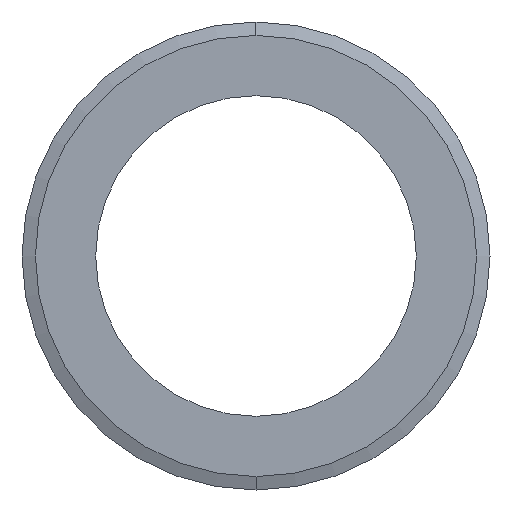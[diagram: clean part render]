
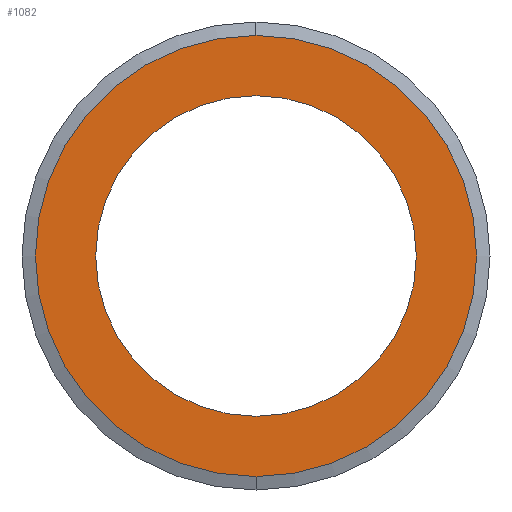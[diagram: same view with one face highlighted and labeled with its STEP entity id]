
A CAD part, left-side view. The second image highlights one B-rep face of the part: STEP entity #1082.
In plain terms, the highlighted planar face has unit normal (-1, 0, 0).
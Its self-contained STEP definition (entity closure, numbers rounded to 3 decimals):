
#57 = EDGE_CURVE ( 'NONE', #449, #1783, #504, .T. ) ;
#86 = AXIS2_PLACEMENT_3D ( 'NONE', #1258, #1267, #1274 ) ;
#201 = VERTEX_POINT ( 'NONE', #742 ) ;
#211 = AXIS2_PLACEMENT_3D ( 'NONE', #1501, #1504, #1512 ) ;
#223 = CIRCLE ( 'NONE', #86, 29.8 ) ;
#299 = CARTESIAN_POINT ( 'NONE',  ( 0., 0., 0. ) ) ;
#301 = ORIENTED_EDGE ( 'NONE', *, *, #1552, .T. ) ;
#304 = DIRECTION ( 'NONE',  ( 1., 0., 0. ) ) ;
#403 = FACE_BOUND ( 'NONE', #1547, .T. ) ;
#435 = AXIS2_PLACEMENT_3D ( 'NONE', #890, #908, #1031 ) ;
#449 = VERTEX_POINT ( 'NONE', #1154 ) ;
#495 = AXIS2_PLACEMENT_3D ( 'NONE', #1553, #1636, #1657 ) ;
#504 = CIRCLE ( 'NONE', #725, 29.8 ) ;
#631 = ORIENTED_EDGE ( 'NONE', *, *, #57, .T. ) ;
#725 = AXIS2_PLACEMENT_3D ( 'NONE', #299, #304, #1772 ) ;
#742 = CARTESIAN_POINT ( 'NONE',  ( 0., 0., 41. ) ) ;
#780 = FACE_OUTER_BOUND ( 'NONE', #1796, .T. ) ;
#890 = CARTESIAN_POINT ( 'NONE',  ( 0., 0., 0. ) ) ;
#908 = DIRECTION ( 'NONE',  ( -1., 0., 0. ) ) ;
#950 = CIRCLE ( 'NONE', #435, 41. ) ;
#1009 = ORIENTED_EDGE ( 'NONE', *, *, #1039, .T. ) ;
#1031 = DIRECTION ( 'NONE',  ( 0., 0., 1. ) ) ;
#1038 = CARTESIAN_POINT ( 'NONE',  ( 0., 0., -29.8 ) ) ;
#1039 = EDGE_CURVE ( 'NONE', #201, #1644, #1580, .T. ) ;
#1082 = ADVANCED_FACE ( 'NONE', ( #403, #780 ), #1628, .F. ) ;
#1154 = CARTESIAN_POINT ( 'NONE',  ( 0., 0., 29.8 ) ) ;
#1258 = CARTESIAN_POINT ( 'NONE',  ( 0., 0., 0. ) ) ;
#1267 = DIRECTION ( 'NONE',  ( 1., 0., 0. ) ) ;
#1274 = DIRECTION ( 'NONE',  ( 0., 0., -1. ) ) ;
#1389 = ORIENTED_EDGE ( 'NONE', *, *, #1747, .T. ) ;
#1501 = CARTESIAN_POINT ( 'NONE',  ( 0., 0., 0. ) ) ;
#1504 = DIRECTION ( 'NONE',  ( -1., 0., 0. ) ) ;
#1512 = DIRECTION ( 'NONE',  ( 0., 0., 1. ) ) ;
#1547 = EDGE_LOOP ( 'NONE', ( #301, #631 ) ) ;
#1552 = EDGE_CURVE ( 'NONE', #1783, #449, #223, .T. ) ;
#1553 = CARTESIAN_POINT ( 'NONE',  ( 0., 0., 0. ) ) ;
#1580 = CIRCLE ( 'NONE', #211, 41. ) ;
#1628 = PLANE ( 'NONE',  #495 ) ;
#1636 = DIRECTION ( 'NONE',  ( 1., 0., 0. ) ) ;
#1644 = VERTEX_POINT ( 'NONE', #1825 ) ;
#1657 = DIRECTION ( 'NONE',  ( 0., 0., -1. ) ) ;
#1747 = EDGE_CURVE ( 'NONE', #1644, #201, #950, .T. ) ;
#1772 = DIRECTION ( 'NONE',  ( 0., 0., -1. ) ) ;
#1783 = VERTEX_POINT ( 'NONE', #1038 ) ;
#1796 = EDGE_LOOP ( 'NONE', ( #1009, #1389 ) ) ;
#1825 = CARTESIAN_POINT ( 'NONE',  ( 0., 0., -41. ) ) ;
